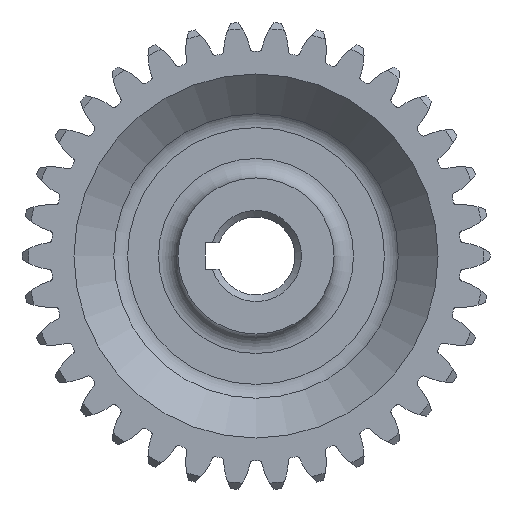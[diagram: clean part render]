
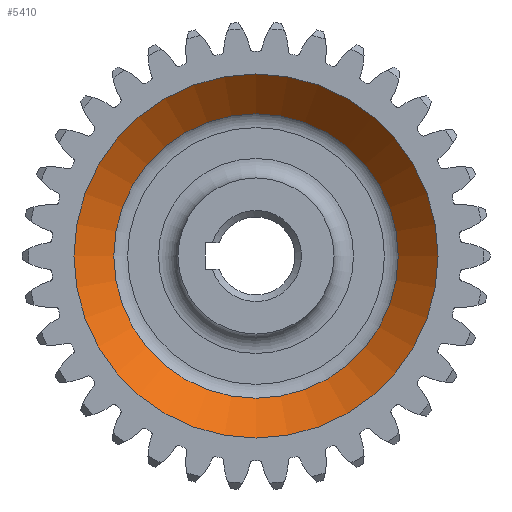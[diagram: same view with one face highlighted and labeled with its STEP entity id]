
A CAD part, left-side view. The second image highlights one B-rep face of the part: STEP entity #5410.
In plain terms, the highlighted conical face has half-angle 45 degrees and reference radius 24.939 mm.
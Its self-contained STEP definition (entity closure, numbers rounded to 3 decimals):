
#583=LINE('',#10151,#801);
#801=VECTOR('',#8003,24.939);
#1098=FACE_OUTER_BOUND('',#1394,.T.);
#1394=EDGE_LOOP('',(#4821,#4822,#4823,#4824,#4825));
#1892=CIRCLE('',#6214,21.879);
#1893=CIRCLE('',#6215,21.879);
#1894=CIRCLE('',#6217,28.);
#2470=VERTEX_POINT('',#10144);
#2471=VERTEX_POINT('',#10146);
#2472=VERTEX_POINT('',#10150);
#3323=EDGE_CURVE('',#2471,#2470,#1892,.T.);
#3324=EDGE_CURVE('',#2470,#2471,#1893,.T.);
#3325=EDGE_CURVE('',#2471,#2472,#583,.T.);
#3326=EDGE_CURVE('',#2472,#2472,#1894,.T.);
#4821=ORIENTED_EDGE('',*,*,#3323,.T.);
#4822=ORIENTED_EDGE('',*,*,#3324,.T.);
#4823=ORIENTED_EDGE('',*,*,#3325,.T.);
#4824=ORIENTED_EDGE('',*,*,#3326,.F.);
#4825=ORIENTED_EDGE('',*,*,#3325,.F.);
#5123=CONICAL_SURFACE('',#6216,24.939,0.785);
#5410=ADVANCED_FACE('',(#1098),#5123,.F.);
#6214=AXIS2_PLACEMENT_3D('',#10147,#7997,#7998);
#6215=AXIS2_PLACEMENT_3D('',#10148,#7999,#8000);
#6216=AXIS2_PLACEMENT_3D('',#10149,#8001,#8002);
#6217=AXIS2_PLACEMENT_3D('',#10152,#8004,#8005);
#7997=DIRECTION('center_axis',(1.,0.,0.));
#7998=DIRECTION('ref_axis',(0.,0.,-1.));
#7999=DIRECTION('center_axis',(1.,0.,0.));
#8000=DIRECTION('ref_axis',(0.,0.,-1.));
#8001=DIRECTION('center_axis',(-1.,0.,0.));
#8002=DIRECTION('ref_axis',(0.,1.,0.));
#8003=DIRECTION('',(-0.707,-0.707,0.));
#8004=DIRECTION('center_axis',(1.,0.,0.));
#8005=DIRECTION('ref_axis',(0.,0.,-1.));
#10144=CARTESIAN_POINT('',(-4.879,0.,21.879));
#10146=CARTESIAN_POINT('',(-4.879,-21.879,0.));
#10147=CARTESIAN_POINT('Origin',(-4.879,0.,
0.));
#10148=CARTESIAN_POINT('Origin',(-4.879,0.,
0.));
#10149=CARTESIAN_POINT('Origin',(-7.939,0.,
0.));
#10150=CARTESIAN_POINT('',(-11.,-28.,0.));
#10151=CARTESIAN_POINT('',(-7.939,-24.939,0.));
#10152=CARTESIAN_POINT('Origin',(-11.,0.,0.));
